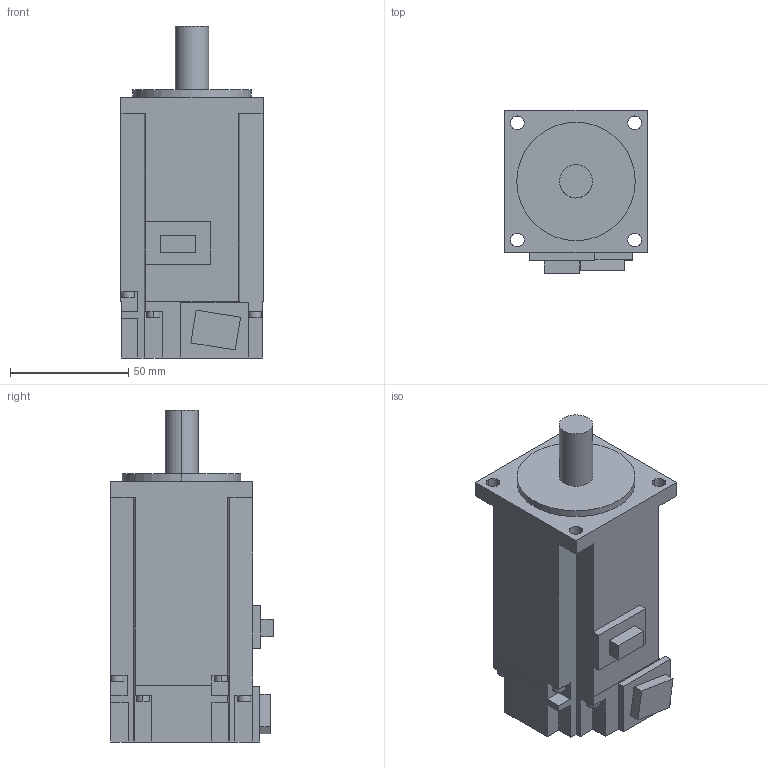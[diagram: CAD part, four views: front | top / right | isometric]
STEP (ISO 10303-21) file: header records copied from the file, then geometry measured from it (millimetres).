
FILE_DESCRIPTION((''),'2;1');
FILE_NAME('HF-KN43_B_IF0001','2010-04-03T',('DD65885'),(''),'PRO/ENGINEER BY PARAMETRIC TECHNOLOGY CORPORATION, 2007390','PRO/ENGINEER BY PARAMETRIC TECHNOLOGY CORPORATION, 2007390','');
FILE_SCHEMA(('CONFIG_CONTROL_DESIGN'));
Length unit declared in the file: millimetre
Products named in the file (1): HF-KN43_B_IF0001
Bounding box: 60 x 68.8 x 140.2 mm (x, y, z)
Volume: 361498 mm3; surface area: 37098.3 mm2
Topology: 1 solids, 1 shells, 117 faces, 308 edges, 204 vertices
Faces by surface type: plane 91, cylinder 26
Entity records: 3636 total; most frequent: CARTESIAN_POINT 629, ORIENTED_EDGE 616, DIRECTION 594, EDGE_CURVE 308, VECTOR 256, LINE 256, VERTEX_POINT 204, AXIS2_PLACEMENT_3D 169
